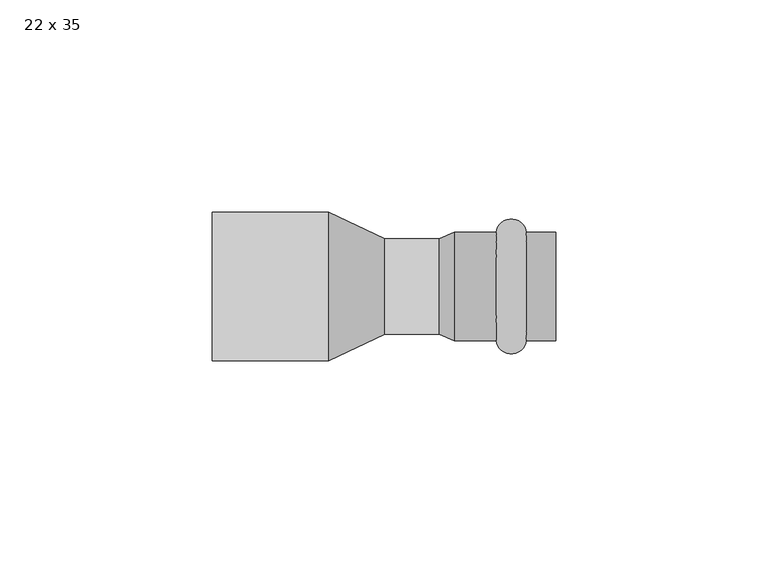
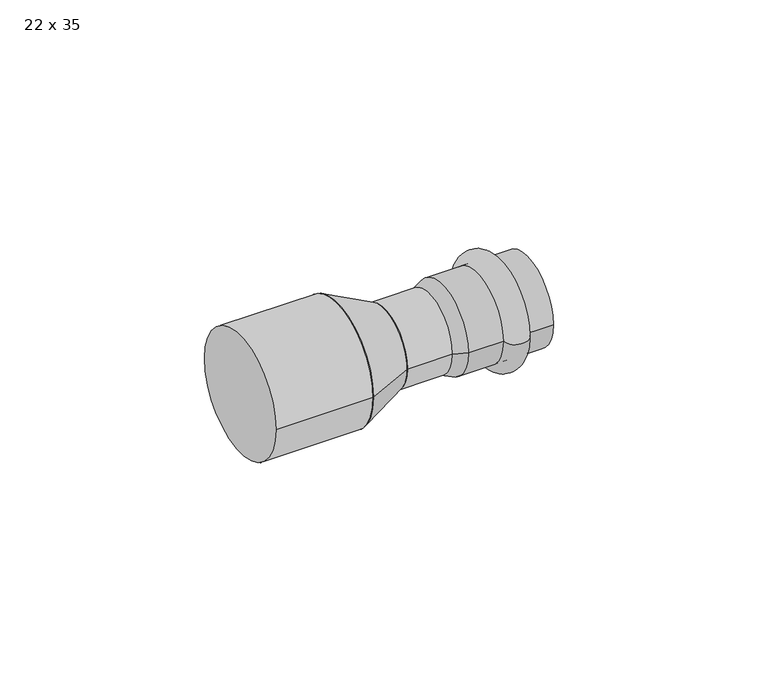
"""IFC4 building model written with IfcOpenShell, lengths in millimetres: pipe fitting geometry, РЕХАУ_Пресс Вставка переходная : 22 x 35."""

from ifc_helpers import new_model, si_unit, point, frame, origin, origin_2d, place, context, project, spatial, polyline, circle_curve, ellipse_curve, trimmed, segment, composite_curve, outline, extrude, source, transform, mapped, element, save
from ifc_brep_helpers import plane_surface, cylinder_surface, revolved_surface, advanced_brep


def pipe_fitting_22_x_35_bd26ee16(model_context):
    return source(origin(), model_context, "Body", "SolidModel", [
        advanced_brep(
        [(74.0, 12.75, 0.0), (74.0, -12.75, 0.0), (67.0, -12.75, 0.0), (67.0, 12.75, 0.0)],
        [
            (0, 1, circle_curve(frame((74.0, 0.0, 0.0), z_axis=(1.0, 0.0, 0.0), x_axis=(0.0, -1.0, 0.0)), 12.75)),
            (1, 2),
            (2, 3, circle_curve(frame((67.0, 0.0, 0.0), z_axis=(-1.0, 0.0, 0.0), x_axis=(0.0, -1.0, 0.0)), 12.75)),
            (3, 0),
            (1, 0, circle_curve(frame((74.0, 0.0, 0.0), z_axis=(1.0, 0.0, 0.0), x_axis=(0.0, -1.0, 0.0)), 12.75)),
            (3, 2, circle_curve(frame((67.0, 0.0, 0.0), z_axis=(-1.0, 0.0, 0.0), x_axis=(0.0, -1.0, 0.0)), 12.75)),
            (2, 1, ellipse_curve(frame((70.5, -12.75, 0.0), z_axis=(0.0, 0.0, 1.0), x_axis=(1.0, 0.0, 0.0)), 3.5, 3.1)),
            (0, 3, ellipse_curve(frame((70.5, 12.75, 0.0), z_axis=(0.0, 0.0, 1.0), x_axis=(1.0, 0.0, 0.0)), 3.5, 3.1)),
        ],
        [
            revolved_surface(polyline([(67.0, -12.75, 0.0), (74.0, -12.75, 0.0)]), (54.0, 0.0, 0.0), (-1.0, 0.0, 0.0)),
            revolved_surface(trimmed(ellipse_curve(frame((70.5, -12.75, 0.0), z_axis=(0.0, 0.0, -1.0), x_axis=(1.0, 0.0, 0.0)), 3.5, 3.1), [point((74.0, -12.75, 0.0))], [point((67.0, -12.75, 0.0))], True, "CARTESIAN"), (54.0, 0.0, 0.0), (-1.0, 0.0, 0.0)),
        ],
        [
            (0, [[1, 2, 3, 4]]),
            (0, [[5, -4, 6, -2]]),
            (1, [[-3, 7, -1, 8]]),
            (1, [[-6, -8, -5, -7]]),
        ],
    ),
        advanced_brep(
        [(53.4662215, 11.25, 0.0), (53.4662215, -11.25, 0.0), (57.0, -12.75, 0.0), (57.0, 12.75, 0.0), (81.0, 11.25, 0.0), (81.0, -11.25, 0.0), (81.0, 12.75, 0.0), (81.0, -12.75, 0.0)],
        [
            (0, 1, circle_curve(frame((53.4662215, 0.0, 0.0), z_axis=(1.0, 0.0, 0.0), x_axis=(0.0, -1.0, 0.0)), 11.25)),
            (1, 2),
            (2, 3, circle_curve(frame((57.0, 0.0, 0.0), z_axis=(-1.0, 0.0, 0.0), x_axis=(0.0, -1.0, 0.0)), 12.75)),
            (3, 0),
            (1, 0, circle_curve(frame((53.4662215, 0.0, 0.0), z_axis=(1.0, 0.0, 0.0), x_axis=(0.0, -1.0, 0.0)), 11.25)),
            (3, 2, circle_curve(frame((57.0, 0.0, 0.0), z_axis=(-1.0, 0.0, 0.0), x_axis=(0.0, -1.0, 0.0)), 12.75)),
            (4, 5, circle_curve(frame((81.0, 0.0, 0.0), z_axis=(1.0, 0.0, 0.0), x_axis=(0.0, -1.0, 0.0)), 11.25)),
            (5, 1),
            (0, 4),
            (5, 4, circle_curve(frame((81.0, 0.0, 0.0), z_axis=(1.0, 0.0, 0.0), x_axis=(0.0, -1.0, 0.0)), 11.25)),
            (6, 7, circle_curve(frame((81.0, 0.0, 0.0), z_axis=(1.0, 0.0, 0.0), x_axis=(0.0, -1.0, 0.0)), 12.75)),
            (7, 5),
            (4, 6),
            (7, 6, circle_curve(frame((81.0, 0.0, 0.0), z_axis=(1.0, 0.0, 0.0), x_axis=(0.0, -1.0, 0.0)), 12.75)),
            (2, 7),
            (6, 3),
        ],
        [
            revolved_surface(polyline([(57.0, -12.75, 0.0), (53.4662215, -11.25, 0.0)]), (54.0, 0.0, 0.0), (-1.0, 0.0, 0.0)),
            revolved_surface(polyline([(53.4662215, -11.25, 0.0), (81.0, -11.25, 0.0)]), (54.0, 0.0, 0.0), (-1.0, 0.0, 0.0)),
            plane_surface(frame((81.0, 0.0, 0.0), z_axis=(1.0, 0.0, 0.0), x_axis=(0.0, -1.0, 0.0))),
            cylinder_surface(frame((54.0, 0.0, 0.0), z_axis=(-1.0, 0.0, 0.0), x_axis=(0.0, -1.0, 0.0)), 12.75),
        ],
        [
            (0, [[1, 2, 3, 4]]),
            (0, [[5, -4, 6, -2]]),
            (1, [[7, 8, -1, 9]]),
            (1, [[10, -9, -5, -8]]),
            (2, [[11, 12, -7, 13]]),
            (2, [[14, -13, -10, -12]]),
            (3, [[-3, 15, -11, 16]]),
            (3, [[-6, -16, -14, -15]]),
        ],
    ),
        extrude(outline(composite_curve([segment(trimmed(circle_curve(origin_2d(), 11.25), [point((-11.25, 0.0))], [point((11.25, 0.0))], False, "CARTESIAN"), True, "CONTINUOUS"), segment(trimmed(circle_curve(origin_2d(), 11.25), [point((11.25, 0.0))], [point((-11.25, 0.0))], False, "CARTESIAN"), True, "CONTINUOUS")], self_intersect=False)), frame((40.7, 0.0, 0.0), z_axis=(1.0, 0.0, 0.0), x_axis=(0.0, 1.0, 0.0)), (0.0, 0.0, 1.0), 16.3),
        advanced_brep(
        [(40.7, -11.25, 0.0), (40.7, 11.25, 0.0), (27.5, -17.5, 0.0), (27.5, 17.5, 0.0)],
        [
            (0, 1, circle_curve(frame((40.7, 0.0, 0.0), z_axis=(1.0, 0.0, 0.0), x_axis=(0.0, -1.0, 0.0)), 11.25)),
            (1, 0, circle_curve(frame((40.7, 0.0, 0.0), z_axis=(1.0, 0.0, 0.0), x_axis=(0.0, 1.0, 0.0)), 11.25)),
            (2, 3, circle_curve(frame((27.5, 0.0, 0.0), z_axis=(-1.0, 0.0, 0.0), x_axis=(0.0, 1.0, 0.0)), 17.5)),
            (3, 2, circle_curve(frame((27.5, 0.0, 0.0), z_axis=(-1.0, 0.0, 0.0), x_axis=(0.0, -1.0, 0.0)), 17.5)),
            (3, 1),
            (0, 2),
        ],
        [
            plane_surface(frame((40.7, 0.0, 0.0), z_axis=(1.0, 0.0, 0.0), x_axis=(0.0, 0.0, -1.0))),
            plane_surface(frame((27.5, 0.0, 0.0), z_axis=(-1.0, 0.0, 0.0), x_axis=(0.0, 0.0, -1.0))),
            revolved_surface(polyline([(40.7, -11.249999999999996, 0.0), (27.5, -17.5, 0.0)]), (64.46, 0.0, 0.0), (-1.0, 0.0, 0.0)),
            revolved_surface(polyline([(40.7, 11.249999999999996, 0.0), (27.5, 17.5, 0.0)]), (64.46, 0.0, 0.0), (-1.0, 0.0, 0.0)),
        ],
        [
            (0, [[1, 2]]),
            (1, [[3, 4]]),
            (2, [[-4, 5, -1, 6]]),
            (3, [[-3, -6, -2, -5]]),
        ],
    ),
        extrude(outline(composite_curve([segment(trimmed(circle_curve(origin_2d(), 17.5), [point((-17.5, 0.0))], [point((17.5, 0.0))], False, "CARTESIAN"), True, "CONTINUOUS"), segment(trimmed(circle_curve(origin_2d(), 17.5), [point((17.5, 0.0))], [point((-17.5, 0.0))], False, "CARTESIAN"), True, "CONTINUOUS")], self_intersect=False)), frame((0.0, 0.0, 0.0), z_axis=(1.0, 0.0, 0.0), x_axis=(0.0, 1.0, 0.0)), (0.0, 0.0, 1.0), 27.5),
    ])


if __name__ == "__main__":
    model = new_model("IFC4")
    model_context = context("Model", 3, world=origin())
    ifc_project = project(units=[si_unit("LENGTHUNIT", "METRE", prefix="MILLI")], contexts=[model_context])
    site = spatial("IfcSite", under=ifc_project)
    building = spatial("IfcBuilding", under=site)
    placement = place(None, origin())
    pipe_fitting_22_x_35_shape = pipe_fitting_22_x_35_bd26ee16(model_context)
    element("IfcPipeFitting", 1, ObjectType="РЕХАУ_Пресс Вставка переходная : 22 x 35", at=placement, inside=building, context=model_context, shape_type="MappedRepresentation", body=[
        mapped(pipe_fitting_22_x_35_shape, transform((0.0, 0.0, 0.0), x_axis=(1.0, 0.0, 0.0), y_axis=(0.0, 1.0, 0.0), z_axis=(0.0, 0.0, 1.0))),
    ])
    save(model, "model.ifc")
